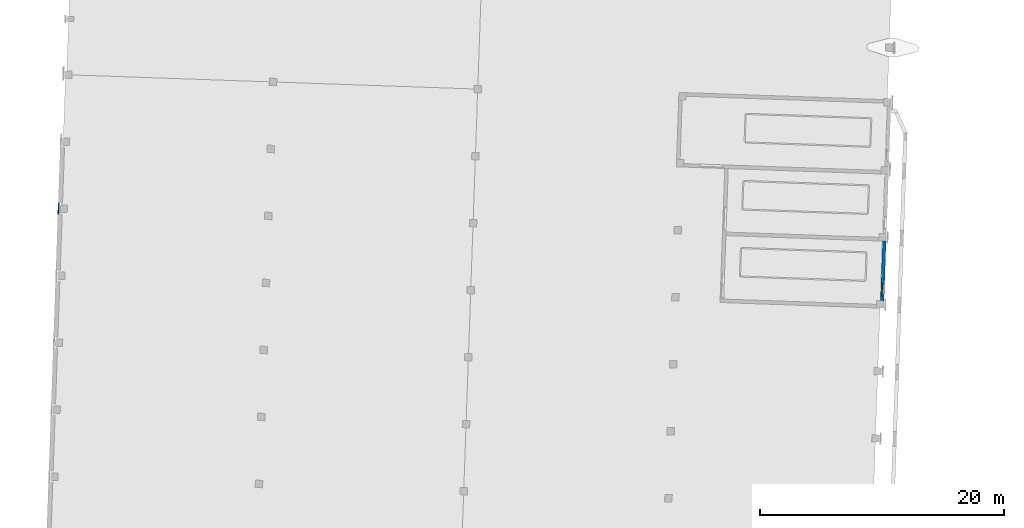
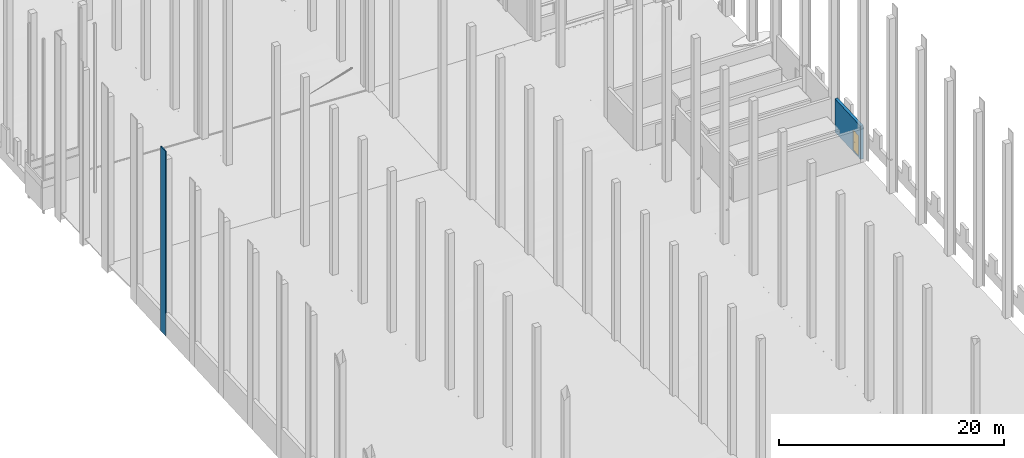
# One storey, part 31 of 44: 2 walls, 1 door, 1 opening.
"""IFC2X3 building model written with IfcOpenShell, lengths in feet."""

from ifc_helpers import new_model, entity, si_unit, converted_unit, derived_unit, direction, frame, frame_2d, origin, place, context, subcontext, project, spatial, rectangle, extrude, faceted_brep, source, transform, mapped, material, material_list, layer, layer_set, layer_usage, type_object, type_shapes, element, fill, save


model = new_model("IFC2X3")

# Units and contexts
model_context = context("Model", 3, precision=0.0001, world=origin(), true_north=direction((0.999390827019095, 0.0348994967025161)))
body_context = subcontext(model_context, "Body", "Model", "MODEL_VIEW")
ifc_project = project(units=[converted_unit("LENGTHUNIT", "FOOT", entity("IfcRatioMeasure", 0.3048), si_unit("LENGTHUNIT", "METRE"), dimensions=[1, 0, 0, 0, 0, 0, 0]), converted_unit("AREAUNIT", "SQUARE FOOT", entity("IfcRatioMeasure", 0.09290304), si_unit("AREAUNIT", "SQUARE_METRE"), dimensions=[2, 0, 0, 0, 0, 0, 0]), converted_unit("VOLUMEUNIT", "CUBIC FOOT", entity("IfcRatioMeasure", 0.028316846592), si_unit("VOLUMEUNIT", "CUBIC_METRE"), dimensions=[3, 0, 0, 0, 0, 0, 0]), converted_unit("PLANEANGLEUNIT", "DEGREE", entity("IfcRatioMeasure", 0.0174532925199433), si_unit("PLANEANGLEUNIT", "RADIAN"), dimensions=[0, 0, 0, 0, 0, 0, 0]), si_unit("MASSUNIT", "GRAM", prefix="KILO"), si_unit("TIMEUNIT", "SECOND"), si_unit("FREQUENCYUNIT", "HERTZ"), si_unit("THERMODYNAMICTEMPERATUREUNIT", "DEGREE_CELSIUS"), derived_unit("THERMALTRANSMITTANCEUNIT", [(si_unit("MASSUNIT", "GRAM", prefix="KILO"), 1), (si_unit("THERMODYNAMICTEMPERATUREUNIT", "KELVIN"), -1), (si_unit("TIMEUNIT", "SECOND"), -3)]), derived_unit("VOLUMETRICFLOWRATEUNIT", [(si_unit("LENGTHUNIT", "METRE"), 3), (si_unit("TIMEUNIT", "SECOND"), -1)]), si_unit("ELECTRICCURRENTUNIT", "AMPERE"), si_unit("ELECTRICVOLTAGEUNIT", "VOLT"), si_unit("POWERUNIT", "WATT"), si_unit("FORCEUNIT", "NEWTON"), si_unit("ILLUMINANCEUNIT", "LUX"), si_unit("LUMINOUSFLUXUNIT", "LUMEN"), si_unit("LUMINOUSINTENSITYUNIT", "CANDELA"), derived_unit("USERDEFINED", [(si_unit("MASSUNIT", "GRAM", prefix="KILO"), -1), (si_unit("LENGTHUNIT", "METRE"), -2), (si_unit("TIMEUNIT", "SECOND"), 3), (si_unit("LUMINOUSFLUXUNIT", "LUMEN"), 1)]), derived_unit("LINEARVELOCITYUNIT", [(si_unit("LENGTHUNIT", "METRE"), 1), (si_unit("TIMEUNIT", "SECOND"), -1)]), si_unit("PRESSUREUNIT", "PASCAL"), derived_unit("USERDEFINED", [(si_unit("LENGTHUNIT", "METRE"), -2), (si_unit("MASSUNIT", "GRAM", prefix="KILO"), 1), (si_unit("TIMEUNIT", "SECOND"), -2)])], contexts=[model_context])

# Site, building, storey
site_placement = place(None, frame((892.518771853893, 322.38689265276, 0.00393700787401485), z_axis=(0.0, 0.0, 1.0), x_axis=(0.0348994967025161, 0.999390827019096, 0.0)))
site = spatial("IfcSite", under=ifc_project, at=site_placement, Name="Default", CompositionType="ELEMENT")
building_placement = place(site_placement, origin())
building = spatial("IfcBuilding", under=site, at=building_placement, CompositionType="ELEMENT")
storey_placement = place(building_placement, frame((0.0, 0.0, 544.75)))
storey = spatial("IfcBuildingStorey", under=building, at=storey_placement, Name="Exist Garage - Ground Level", CompositionType="ELEMENT", Elevation=544.75)

# Wall
ifc_material_1 = material(Name="Masonry - Brick")
ifc_layer_1 = layer(ifc_material_1, 0.302083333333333)
ifc_layer_set_1 = layer_set([ifc_layer_1], Name="Basic Wall:(Existing) Exterior - Brick Veneer 3 5/8\"")
ifc_layer_usage_1 = layer_usage(ifc_layer_set_1, "AXIS2", "NEGATIVE", 0.151041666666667)
wall_type_1 = type_object("IfcWallType", Name="Basic Wall:(Existing) Exterior - Brick Veneer 3 5/8\"", PredefinedType="STANDARD", material=ifc_layer_set_1)
wall_1_placement = place(storey_placement, frame((20.4272542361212, 458.112911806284, 0.0)))
element("IfcWallStandardCase", 1, at=wall_1_placement, inside=storey, type_object=wall_type_1, material=ifc_layer_usage_1, Name="Basic Wall:(Existing) Exterior - Brick Veneer 3 5/8\"", ObjectType="Basic Wall:(Existing) Exterior - Brick Veneer 3 5/8\"", context=body_context, shape_type="SweptSolid", body=[
    extrude(rectangle(XDim=3.00000000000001, YDim=0.302083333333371, at=frame_2d((1.5, 0.0), x_axis=(-1.0, 0.0))), origin(), (0.0, 0.0, 1.0), 65.8125),
])

# Wall, opening, door
ifc_material_2 = material(Name="Masonry - Concrete Masonry Units")
ifc_layer_2 = layer(ifc_material_2, 0.96875)
ifc_layer_set_2 = layer_set([ifc_layer_2], Name="Basic Wall:Interior - (C12) 12\" cmu")
ifc_layer_usage_2 = layer_usage(ifc_layer_set_2, "AXIS2", "NEGATIVE", 0.484375)
wall_type_2 = type_object("IfcWallType", Name="Basic Wall:Interior - (C12) 12\" cmu", PredefinedType="STANDARD", material=ifc_layer_set_2)
wall_2_placement = place(storey_placement, frame((20.9272542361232, 236.248328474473, -0.416666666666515), z_axis=(0.0, 0.0, 1.0), x_axis=(-1.0, 0.0, 0.0)))
wall_2 = element("IfcWallStandardCase", 2, at=wall_2_placement, inside=storey, type_object=wall_type_2, material=ifc_layer_usage_2, Name="Basic Wall:Interior - (C12) 12\" cmu", ObjectType="Basic Wall:Interior - (C12) 12\" cmu", context=body_context, shape_type="SweptSolid", body=[
    extrude(rectangle(XDim=16.0000000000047, YDim=0.96875, at=frame_2d((8.00000000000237, -5.82867087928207e-16), x_axis=(-1.0, 0.0))), origin(), (0.0, 0.0, 1.0), 11.8498357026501),
])
opening_placement = place(wall_2_placement, frame((14.6666666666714, 0.484374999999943, 0.416666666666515)))
opening = element("IfcOpeningElement", 3, at=opening_placement, cuts=wall_2, Name="HM_Frame_Door_-_Interior_Single_3897:3'-0\" x 7'-0\" Metal_5.75\" x 4\":1", ObjectType="Opening", context=body_context, shape_type="SweptSolid", body=[
    extrude(rectangle(XDim=3.33333333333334, YDim=7.33333333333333, at=frame_2d((3.66666666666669, 1.66666666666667), x_axis=(0.0, -1.0))), frame((0.0, 0.0, 0.0), z_axis=(0.0, -1.0, 0.0), x_axis=(0.0, 0.0, 1.0)), (0.0, 0.0, 1.0), 0.96875),
])
ifc_material_3 = material(Name="Door - Hardware")
ifc_material_4 = material(Name="Door - H.M. Panel")
ifc_material_5 = material(Name="Door - H.M. Frame")
ifc_material_list_1 = material_list([ifc_material_3, ifc_material_4, ifc_material_5])
ifc_material_list_2 = material_list([ifc_material_3, ifc_material_4, ifc_material_5])
door_style = type_object("IfcDoorStyle", Name="3'-0\" x 7'-0\" Metal_5.75\" x 4\"", ConstructionType="NOTDEFINED", OperationType="NOTDEFINED", ParameterTakesPrecedence=False, Sizeable=False, material=ifc_material_list_2)
shared_shape = source(origin(), body_context, "Body", "Brep", [
    faceted_brep([(2.6243203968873, 0.425163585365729, 3.36458333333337), (2.63071126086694, 0.41145833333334, 3.36458333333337), (2.63071126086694, 0.41145833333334, 3.30208333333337), (2.6243203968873, 0.425163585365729, 3.30208333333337), (2.57149311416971, 0.53845205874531, 3.31250000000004), (2.57149311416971, 0.53845205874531, 3.3541666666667), (2.53373028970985, 0.520842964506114, 3.31250000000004), (2.58655757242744, 0.407554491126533, 3.30208333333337), (2.60416666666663, 0.369791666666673, 3.30208333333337), (2.60416666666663, 0.369791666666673, 3.36458333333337), (2.58655757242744, 0.407554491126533, 3.36458333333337), (2.53373028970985, 0.520842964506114, 3.3541666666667), (2.60416666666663, 0.41145833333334, 3.30208333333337), (2.60416666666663, 0.41145833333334, 3.36458333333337), (2.9361960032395, 0.369791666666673, 3.29168707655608), (2.94639661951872, 0.369791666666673, 3.29262754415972), (2.95605949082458, 0.369791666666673, 3.29602842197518), (2.96460055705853, 0.369791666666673, 3.3016841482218), (2.97150356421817, 0.369791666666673, 3.30925286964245), (2.97635126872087, 0.369791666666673, 3.31827710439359), (2.97885065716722, 0.369791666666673, 3.32821139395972), (2.97885065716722, 0.369791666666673, 3.33845527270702), (2.97635126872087, 0.369791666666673, 3.34838956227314), (2.97150356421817, 0.369791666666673, 3.35741379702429), (2.96460055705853, 0.369791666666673, 3.36498251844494), (2.95605949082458, 0.369791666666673, 3.37063824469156), (2.94639661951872, 0.369791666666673, 3.37403912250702), (2.9361960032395, 0.369791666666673, 3.37497959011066), (2.92566985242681, 0.41145833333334, 3.29338137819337), (2.9361960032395, 0.41145833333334, 3.29168707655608), (2.9361960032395, 0.41145833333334, 3.37497959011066), (2.92566985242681, 0.41145833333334, 3.37328528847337), (2.91591827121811, 0.41145833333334, 3.36897516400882), (2.90757973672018, 0.41145833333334, 3.36233141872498), (2.90120020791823, 0.41145833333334, 3.35378904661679), (2.89719737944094, 0.41145833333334, 3.34390735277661), (2.8958333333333, 0.41145833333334, 3.33333333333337), (2.89719737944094, 0.41145833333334, 3.32275931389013), (2.90120020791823, 0.41145833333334, 3.31287762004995), (2.90757973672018, 0.41145833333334, 3.30433524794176), (2.91591827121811, 0.41145833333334, 3.29769150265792), (2.94568224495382, 0.41145833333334, 3.29247795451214), (2.95473886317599, 0.41145833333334, 3.2954000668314), (2.96289592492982, 0.41145833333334, 3.30030065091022), (2.96972778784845, 0.41145833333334, 3.30692347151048), (2.9748787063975, 0.41145833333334, 3.31492291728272), (2.97808054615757, 0.41145833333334, 3.32388185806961), (2.97916666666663, 0.411458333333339, 3.33333333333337), (2.97808054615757, 0.41145833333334, 3.34278480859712), (2.9748787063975, 0.41145833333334, 3.35174374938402), (2.96972778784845, 0.41145833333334, 3.35974319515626), (2.96289592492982, 0.41145833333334, 3.36636601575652), (2.95473886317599, 0.41145833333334, 3.37126659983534), (2.94568224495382, 0.41145833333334, 3.3741887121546), (2.97774690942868, 0.536458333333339, 3.34411746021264), (2.97916666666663, 0.536458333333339, 3.33333333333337), (2.97358439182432, 0.536458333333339, 3.3541666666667), (2.9669627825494, 0.536458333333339, 3.36279611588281), (2.9583333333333, 0.536458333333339, 3.36941772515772), (2.94828412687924, 0.536458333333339, 3.37358024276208), (2.93749999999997, 0.536458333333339, 3.37500000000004), (2.92671587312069, 0.536458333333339, 3.37358024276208), (2.91666666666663, 0.536458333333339, 3.36941772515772), (2.90803721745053, 0.536458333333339, 3.36279611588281), (2.90141560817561, 0.536458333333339, 3.3541666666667), (2.89725309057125, 0.536458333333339, 3.34411746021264), (2.8958333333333, 0.536458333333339, 3.33333333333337), (2.89725309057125, 0.536458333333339, 3.3225492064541), (2.90141560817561, 0.536458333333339, 3.31250000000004), (2.90803721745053, 0.536458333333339, 3.30387055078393), (2.91666666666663, 0.536458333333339, 3.29724894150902), (2.92671587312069, 0.536458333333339, 3.29308642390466), (2.93749999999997, 0.536458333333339, 3.2916666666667), (2.94828412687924, 0.536458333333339, 3.29308642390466), (2.9583333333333, 0.536458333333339, 3.29724894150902), (2.9669627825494, 0.536458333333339, 3.30387055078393), (2.97358439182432, 0.536458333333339, 3.31250000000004), (2.97774690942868, 0.536458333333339, 3.3225492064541), (2.8645833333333, 0.536458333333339, 3.4596287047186), (2.83438026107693, 0.536458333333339, 3.43645307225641), (2.89975555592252, 0.536458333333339, 3.47419751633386), (2.93749999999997, 0.536458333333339, 3.4791666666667), (2.97524444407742, 0.536458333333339, 3.47419751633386), (3.01041666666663, 0.536458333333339, 3.4596287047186), (3.040619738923, 0.536458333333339, 3.43645307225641), (3.0637953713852, 0.536458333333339, 3.40625000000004), (3.07836418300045, 0.536458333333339, 3.37107777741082), (3.0833333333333, 0.536458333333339, 3.33333333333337), (3.07836418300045, 0.536458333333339, 3.29558888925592), (3.0637953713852, 0.536458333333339, 3.2604166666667), (3.040619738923, 0.536458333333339, 3.23021359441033), (3.01041666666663, 0.536458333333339, 3.20703796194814), (2.97524444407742, 0.536458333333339, 3.19246915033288), (2.93749999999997, 0.536458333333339, 3.18750000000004), (2.89975555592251, 0.536458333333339, 3.19246915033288), (2.8645833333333, 0.536458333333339, 3.20703796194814), (2.83438026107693, 0.536458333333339, 3.23021359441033), (2.81120462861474, 0.536458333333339, 3.2604166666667), (2.79663581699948, 0.536458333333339, 3.29558888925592), (2.79166666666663, 0.536458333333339, 3.33333333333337), (2.79663581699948, 0.536458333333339, 3.37107777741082), (2.81120462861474, 0.536458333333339, 3.40625000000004), (2.83438026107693, 0.578125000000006, 3.23021359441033), (2.81120462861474, 0.578125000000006, 3.2604166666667), (2.79663581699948, 0.578125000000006, 3.29558888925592), (2.79166666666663, 0.578125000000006, 3.33333333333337), (2.79663581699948, 0.578125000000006, 3.37107777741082), (2.81120462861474, 0.578125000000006, 3.40625000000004), (2.83438026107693, 0.578125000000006, 3.43645307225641), (2.8645833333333, 0.578125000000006, 3.4596287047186), (2.89975555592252, 0.578125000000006, 3.47419751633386), (2.93749999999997, 0.578125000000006, 3.4791666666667), (2.97524444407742, 0.578125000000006, 3.47419751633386), (3.01041666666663, 0.578125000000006, 3.4596287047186), (3.040619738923, 0.578125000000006, 3.43645307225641), (3.0637953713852, 0.578125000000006, 3.40625000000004), (3.07836418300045, 0.578125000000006, 3.37107777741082), (3.0833333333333, 0.578125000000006, 3.33333333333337), (3.07836418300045, 0.578125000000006, 3.29558888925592), (3.0637953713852, 0.578125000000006, 3.2604166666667), (3.040619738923, 0.578125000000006, 3.23021359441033), (3.01041666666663, 0.578125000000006, 3.20703796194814), (2.97524444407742, 0.578125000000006, 3.19246915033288), (2.93749999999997, 0.578125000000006, 3.18750000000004), (2.89975555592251, 0.578125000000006, 3.19246915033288), (2.8645833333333, 0.578125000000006, 3.20703796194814)], [[[0, 1, 2, 3, 4, 5]], [[6, 7, 8, 9, 10, 11]], [[3, 2, 12, 8, 7]], [[4, 3, 7, 6]], [[5, 4, 6, 11]], [[0, 5, 11, 10]], [[1, 0, 10, 9, 13]], [[9, 8, 14, 15, 16, 17, 18, 19, 20, 21, 22, 23, 24, 25, 26, 27]], [[28, 29, 12, 2, 1, 13, 30, 31, 32, 33, 34, 35, 36, 37, 38, 39, 40]], [[14, 8, 12, 29]], [[41, 14, 29]], [[42, 15, 41]], [[17, 43, 44]], [[44, 45, 18]], [[42, 43, 16]], [[46, 19, 45]], [[42, 16, 15]], [[15, 14, 41]], [[19, 18, 45]], [[17, 44, 18]], [[17, 16, 43]], [[20, 19, 46]], [[46, 47, 20]], [[48, 21, 47]], [[49, 22, 48]], [[24, 50, 51]], [[51, 52, 25]], [[49, 50, 23]], [[53, 26, 52]], [[24, 23, 50]], [[23, 22, 49]], [[22, 21, 48]], [[27, 26, 53]], [[25, 52, 26]], [[25, 24, 51]], [[27, 53, 30]], [[47, 21, 20]], [[9, 27, 30, 13]], [[54, 48, 55]], [[56, 49, 54]], [[51, 57, 58]], [[56, 57, 50]], [[52, 58, 59]], [[54, 49, 48]], [[48, 47, 55]], [[52, 51, 58]], [[50, 57, 51]], [[50, 49, 56]], [[53, 52, 59]], [[59, 60, 53]], [[61, 30, 60]], [[62, 31, 61]], [[33, 63, 64]], [[64, 65, 34]], [[62, 63, 32]], [[66, 35, 65]], [[62, 32, 31]], [[31, 30, 61]], [[35, 34, 65]], [[33, 64, 34]], [[33, 32, 63]], [[36, 35, 66]], [[60, 30, 53]], [[67, 37, 66]], [[68, 38, 67]], [[40, 69, 70]], [[68, 69, 39]], [[28, 70, 71]], [[67, 38, 37]], [[37, 36, 66]], [[28, 40, 70]], [[39, 69, 40]], [[39, 38, 68]], [[29, 28, 71]], [[71, 72, 29]], [[73, 41, 72]], [[74, 42, 73]], [[44, 75, 76]], [[76, 77, 45]], [[74, 75, 43]], [[55, 46, 77]], [[74, 43, 42]], [[42, 41, 73]], [[46, 45, 77]], [[44, 76, 45]], [[44, 43, 75]], [[47, 46, 55]], [[72, 41, 29]], [[62, 61, 78]], [[79, 62, 78]], [[62, 79, 63]], [[61, 80, 78]], [[80, 61, 60]], [[80, 60, 81]], [[59, 81, 60]], [[81, 59, 82]], [[59, 58, 82]], [[83, 82, 58]], [[57, 83, 58]], [[83, 57, 84]], [[56, 84, 57]], [[85, 84, 56]], [[54, 85, 56]], [[86, 85, 54]], [[86, 54, 55]], [[86, 55, 87]], [[87, 55, 77]], [[87, 77, 88]], [[88, 77, 76]], [[88, 76, 89]], [[90, 89, 76]], [[90, 76, 75]], [[75, 91, 90]], [[75, 74, 91]], [[92, 91, 74]], [[73, 92, 74]], [[73, 93, 92]], [[93, 73, 72]], [[72, 94, 93]], [[71, 94, 72]], [[94, 71, 95]], [[70, 95, 71]], [[96, 95, 70]], [[96, 70, 69]], [[96, 69, 97]], [[97, 69, 68]], [[97, 68, 98]], [[67, 98, 68]], [[99, 98, 67]], [[67, 66, 99]], [[66, 100, 99]], [[100, 66, 65]], [[100, 65, 101]], [[65, 64, 101]], [[63, 101, 64]], [[79, 101, 63]], [[102, 103, 104, 105, 106, 107, 108, 109, 110, 111, 112, 113, 114, 115, 116, 117, 118, 119, 120, 121, 122, 123, 124, 125]], [[116, 86, 87, 117]], [[115, 85, 86, 116]], [[83, 84, 114, 113]], [[115, 114, 84, 85]], [[82, 83, 113, 112]], [[81, 82, 112, 111]], [[110, 80, 81, 111]], [[109, 78, 80, 110]], [[101, 79, 108, 107]], [[109, 108, 79, 78]], [[100, 101, 107, 106]], [[99, 100, 106, 105]], [[104, 98, 99, 105]], [[103, 97, 98, 104]], [[95, 96, 102, 125]], [[103, 102, 96, 97]], [[94, 95, 125, 124]], [[93, 94, 124, 123]], [[122, 92, 93, 123]], [[121, 91, 92, 122]], [[89, 90, 120, 119]], [[121, 120, 90, 91]], [[88, 89, 119, 118]], [[87, 88, 118, 117]]]),
    faceted_brep([(2.62432039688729, 0.876919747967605, 3.30208333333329), (2.63071126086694, 0.890624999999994, 3.30208333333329), (2.63071126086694, 0.890624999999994, 3.36458333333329), (2.62432039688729, 0.876919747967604, 3.36458333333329), (2.57149311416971, 0.763631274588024, 3.35416666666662), (2.57149311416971, 0.763631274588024, 3.31249999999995), (2.53373028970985, 0.781240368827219, 3.35416666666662), (2.58655757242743, 0.8945288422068, 3.36458333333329), (2.60416666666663, 0.932291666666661, 3.36458333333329), (2.60416666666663, 0.932291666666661, 3.30208333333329), (2.58655757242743, 0.8945288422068, 3.30208333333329), (2.53373028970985, 0.781240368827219, 3.31249999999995), (2.60416666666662, 0.890624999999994, 3.36458333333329), (2.60416666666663, 0.890624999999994, 3.30208333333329), (2.9361960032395, 0.932291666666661, 3.37497959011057), (2.94639661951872, 0.932291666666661, 3.37403912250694), (2.95605949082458, 0.932291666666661, 3.37063824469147), (2.96460055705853, 0.932291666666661, 3.36498251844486), (2.97150356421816, 0.932291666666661, 3.35741379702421), (2.97635126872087, 0.932291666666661, 3.34838956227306), (2.97885065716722, 0.932291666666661, 3.33845527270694), (2.97885065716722, 0.932291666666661, 3.32821139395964), (2.97635126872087, 0.932291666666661, 3.31827710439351), (2.97150356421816, 0.932291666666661, 3.30925286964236), (2.96460055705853, 0.932291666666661, 3.30168414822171), (2.95605949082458, 0.932291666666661, 3.2960284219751), (2.94639661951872, 0.932291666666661, 3.29262754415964), (2.9361960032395, 0.932291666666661, 3.291687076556), (2.92566985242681, 0.890624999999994, 3.37328528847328), (2.9361960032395, 0.890624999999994, 3.37497959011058), (2.9361960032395, 0.890624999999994, 3.291687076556), (2.92566985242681, 0.890624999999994, 3.29338137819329), (2.91591827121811, 0.890624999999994, 3.29769150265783), (2.90757973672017, 0.890624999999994, 3.30433524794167), (2.90120020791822, 0.890624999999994, 3.31287762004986), (2.89719737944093, 0.890624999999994, 3.32275931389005), (2.8958333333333, 0.890624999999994, 3.33333333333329), (2.89719737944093, 0.890624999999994, 3.34390735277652), (2.90120020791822, 0.890624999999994, 3.35378904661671), (2.90757973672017, 0.890624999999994, 3.3623314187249), (2.91591827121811, 0.890624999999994, 3.36897516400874), (2.94568224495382, 0.890624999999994, 3.37418871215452), (2.95473886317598, 0.890624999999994, 3.37126659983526), (2.96289592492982, 0.890624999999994, 3.36636601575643), (2.96972778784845, 0.890624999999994, 3.35974319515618), (2.9748787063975, 0.890624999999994, 3.35174374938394), (2.97808054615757, 0.890624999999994, 3.34278480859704), (2.97916666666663, 0.890624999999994, 3.33333333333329), (2.97808054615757, 0.890624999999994, 3.32388185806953), (2.9748787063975, 0.890624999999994, 3.31492291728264), (2.96972778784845, 0.890624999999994, 3.30692347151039), (2.96289592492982, 0.890624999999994, 3.30030065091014), (2.95473886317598, 0.890624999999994, 3.29540006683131), (2.94568224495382, 0.890624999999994, 3.29247795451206), (2.97774690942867, 0.765624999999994, 3.32254920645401), (2.97916666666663, 0.765624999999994, 3.33333333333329), (2.97358439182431, 0.765624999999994, 3.31249999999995), (2.9669627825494, 0.765624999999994, 3.30387055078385), (2.9583333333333, 0.765624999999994, 3.29724894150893), (2.94828412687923, 0.765624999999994, 3.29308642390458), (2.93749999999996, 0.765624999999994, 3.29166666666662), (2.92671587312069, 0.765624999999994, 3.29308642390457), (2.91666666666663, 0.765624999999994, 3.29724894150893), (2.90803721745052, 0.765624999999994, 3.30387055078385), (2.90141560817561, 0.765624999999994, 3.31249999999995), (2.89725309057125, 0.765624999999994, 3.32254920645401), (2.8958333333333, 0.765624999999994, 3.33333333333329), (2.89725309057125, 0.765624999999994, 3.34411746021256), (2.90141560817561, 0.765624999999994, 3.35416666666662), (2.90803721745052, 0.765624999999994, 3.36279611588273), (2.91666666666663, 0.765624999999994, 3.36941772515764), (2.92671587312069, 0.765624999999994, 3.373580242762), (2.93749999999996, 0.765624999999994, 3.37499999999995), (2.94828412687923, 0.765624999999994, 3.373580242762), (2.9583333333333, 0.765624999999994, 3.36941772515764), (2.9669627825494, 0.765624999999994, 3.36279611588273), (2.97358439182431, 0.765624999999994, 3.35416666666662), (2.97774690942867, 0.765624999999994, 3.34411746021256), (2.8645833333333, 0.765624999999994, 3.20703796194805), (2.83438026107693, 0.765624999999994, 3.23021359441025), (2.89975555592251, 0.765624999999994, 3.1924691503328), (2.93749999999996, 0.765624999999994, 3.18749999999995), (2.97524444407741, 0.765624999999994, 3.1924691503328), (3.01041666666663, 0.765624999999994, 3.20703796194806), (3.040619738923, 0.765624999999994, 3.23021359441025), (3.06379537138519, 0.765624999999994, 3.26041666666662), (3.07836418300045, 0.765624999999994, 3.29558888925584), (3.0833333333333, 0.765624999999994, 3.33333333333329), (3.07836418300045, 0.765624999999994, 3.37107777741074), (3.06379537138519, 0.765624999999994, 3.40624999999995), (3.040619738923, 0.765624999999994, 3.43645307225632), (3.01041666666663, 0.765624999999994, 3.45962870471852), (2.97524444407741, 0.765624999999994, 3.47419751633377), (2.93749999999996, 0.765624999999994, 3.47916666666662), (2.89975555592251, 0.765624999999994, 3.47419751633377), (2.8645833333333, 0.765624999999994, 3.45962870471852), (2.83438026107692, 0.765624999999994, 3.43645307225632), (2.81120462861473, 0.765624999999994, 3.40624999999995), (2.79663581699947, 0.765624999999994, 3.37107777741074), (2.79166666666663, 0.765624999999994, 3.33333333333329), (2.79663581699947, 0.765624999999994, 3.29558888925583), (2.81120462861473, 0.765624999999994, 3.26041666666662), (2.83438026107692, 0.723958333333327, 3.43645307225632), (2.81120462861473, 0.723958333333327, 3.40624999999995), (2.79663581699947, 0.723958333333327, 3.37107777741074), (2.79166666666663, 0.723958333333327, 3.33333333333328), (2.79663581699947, 0.723958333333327, 3.29558888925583), (2.81120462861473, 0.723958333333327, 3.26041666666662), (2.83438026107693, 0.723958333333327, 3.23021359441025), (2.8645833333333, 0.723958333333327, 3.20703796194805), (2.89975555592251, 0.723958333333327, 3.1924691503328), (2.93749999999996, 0.723958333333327, 3.18749999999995), (2.97524444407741, 0.723958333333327, 3.1924691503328), (3.01041666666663, 0.723958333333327, 3.20703796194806), (3.040619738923, 0.723958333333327, 3.23021359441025), (3.06379537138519, 0.723958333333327, 3.26041666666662), (3.07836418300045, 0.723958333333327, 3.29558888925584), (3.0833333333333, 0.723958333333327, 3.33333333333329), (3.07836418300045, 0.723958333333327, 3.37107777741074), (3.06379537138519, 0.723958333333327, 3.40624999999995), (3.040619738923, 0.723958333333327, 3.43645307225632), (3.01041666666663, 0.723958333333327, 3.45962870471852), (2.97524444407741, 0.723958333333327, 3.47419751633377), (2.93749999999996, 0.723958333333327, 3.47916666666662), (2.89975555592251, 0.723958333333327, 3.47419751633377), (2.8645833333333, 0.723958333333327, 3.45962870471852)], [[[0, 1, 2, 3, 4, 5]], [[6, 7, 8, 9, 10, 11]], [[3, 2, 12, 8, 7]], [[4, 3, 7, 6]], [[5, 4, 6, 11]], [[0, 5, 11, 10]], [[1, 0, 10, 9, 13]], [[9, 8, 14, 15, 16, 17, 18, 19, 20, 21, 22, 23, 24, 25, 26, 27]], [[28, 29, 12, 2, 1, 13, 30, 31, 32, 33, 34, 35, 36, 37, 38, 39, 40]], [[14, 8, 12, 29]], [[41, 14, 29]], [[42, 15, 41]], [[17, 43, 44]], [[44, 45, 18]], [[42, 43, 16]], [[46, 19, 45]], [[42, 16, 15]], [[15, 14, 41]], [[19, 18, 45]], [[17, 44, 18]], [[17, 16, 43]], [[20, 19, 46]], [[46, 47, 20]], [[48, 21, 47]], [[49, 22, 48]], [[24, 50, 51]], [[51, 52, 25]], [[49, 50, 23]], [[53, 26, 52]], [[24, 23, 50]], [[23, 22, 49]], [[22, 21, 48]], [[27, 26, 53]], [[25, 52, 26]], [[25, 24, 51]], [[27, 53, 30]], [[47, 21, 20]], [[9, 27, 30, 13]], [[54, 48, 55]], [[56, 49, 54]], [[51, 57, 58]], [[56, 57, 50]], [[52, 58, 59]], [[54, 49, 48]], [[48, 47, 55]], [[52, 51, 58]], [[50, 57, 51]], [[50, 49, 56]], [[53, 52, 59]], [[59, 60, 53]], [[61, 30, 60]], [[62, 31, 61]], [[33, 63, 64]], [[64, 65, 34]], [[62, 63, 32]], [[66, 35, 65]], [[62, 32, 31]], [[31, 30, 61]], [[35, 34, 65]], [[33, 64, 34]], [[33, 32, 63]], [[36, 35, 66]], [[60, 30, 53]], [[67, 37, 66]], [[68, 38, 67]], [[40, 69, 70]], [[68, 69, 39]], [[28, 70, 71]], [[67, 38, 37]], [[37, 36, 66]], [[28, 40, 70]], [[39, 69, 40]], [[39, 38, 68]], [[29, 28, 71]], [[71, 72, 29]], [[73, 41, 72]], [[74, 42, 73]], [[44, 75, 76]], [[76, 77, 45]], [[74, 75, 43]], [[55, 46, 77]], [[74, 43, 42]], [[42, 41, 73]], [[46, 45, 77]], [[44, 76, 45]], [[44, 43, 75]], [[47, 46, 55]], [[72, 41, 29]], [[62, 61, 78]], [[79, 62, 78]], [[62, 79, 63]], [[61, 80, 78]], [[80, 61, 60]], [[80, 60, 81]], [[59, 81, 60]], [[81, 59, 82]], [[59, 58, 82]], [[83, 82, 58]], [[57, 83, 58]], [[83, 57, 84]], [[56, 84, 57]], [[85, 84, 56]], [[54, 85, 56]], [[86, 85, 54]], [[86, 54, 55]], [[86, 55, 87]], [[87, 55, 77]], [[87, 77, 88]], [[88, 77, 76]], [[88, 76, 89]], [[90, 89, 76]], [[90, 76, 75]], [[75, 91, 90]], [[75, 74, 91]], [[92, 91, 74]], [[73, 92, 74]], [[73, 93, 92]], [[93, 73, 72]], [[72, 94, 93]], [[71, 94, 72]], [[94, 71, 95]], [[70, 95, 71]], [[96, 95, 70]], [[96, 70, 69]], [[96, 69, 97]], [[97, 69, 68]], [[97, 68, 98]], [[67, 98, 68]], [[99, 98, 67]], [[67, 66, 99]], [[66, 100, 99]], [[100, 66, 65]], [[100, 65, 101]], [[65, 64, 101]], [[63, 101, 64]], [[79, 101, 63]], [[102, 103, 104, 105, 106, 107, 108, 109, 110, 111, 112, 113, 114, 115, 116, 117, 118, 119, 120, 121, 122, 123, 124, 125]], [[116, 86, 87, 117]], [[115, 85, 86, 116]], [[83, 84, 114, 113]], [[115, 114, 84, 85]], [[82, 83, 113, 112]], [[81, 82, 112, 111]], [[110, 80, 81, 111]], [[109, 78, 80, 110]], [[101, 79, 108, 107]], [[109, 108, 79, 78]], [[100, 101, 107, 106]], [[99, 100, 106, 105]], [[104, 98, 99, 105]], [[103, 97, 98, 104]], [[95, 96, 102, 125]], [[103, 102, 96, 97]], [[94, 95, 125, 124]], [[93, 94, 124, 123]], [[122, 92, 93, 123]], [[121, 91, 92, 122]], [[89, 90, 120, 119]], [[121, 120, 90, 91]], [[88, 89, 119, 118]], [[87, 88, 118, 117]]]),
    faceted_brep([(0.166666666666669, 0.723958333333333, 7.0), (3.16666666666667, 0.723958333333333, 7.0), (3.16666666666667, 0.723958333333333, 0.0), (0.166666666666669, 0.723958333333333, 0.0), (0.166666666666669, 0.578125, 7.0), (0.166666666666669, 0.578125, 0.0), (3.16666666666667, 0.578125, 0.0), (3.16666666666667, 0.578125, 7.0)], [[[0, 1, 2, 3]], [[4, 5, 6, 7]], [[1, 0, 4, 7]], [[2, 1, 7, 6]], [[3, 2, 6, 5]], [[0, 3, 5, 4]]]),
    faceted_brep([(0.166666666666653, 0.723958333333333, 0.0), (0.166666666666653, 0.578125, 0.0), (0.218749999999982, 0.578125, 0.0), (0.218749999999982, 0.390625, 0.0), (0.166666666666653, 0.390625, 0.0), (0.166666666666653, 0.244791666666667, 0.0), (0.0, 0.244791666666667, 0.0), (0.0, 0.723958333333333, 0.0), (0.166666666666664, 0.723958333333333, 7.0), (0.166666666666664, 0.578125, 7.0), (3.16666666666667, 0.578125, 7.0), (3.16666666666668, 0.578125, 0.0), (3.11458333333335, 0.578125, 0.0), (3.11458333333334, 0.578125, 6.94791666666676), (0.218749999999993, 0.578125, 6.94791666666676), (0.218749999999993, 0.390625, 6.94791666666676), (3.11458333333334, 0.390625, 6.94791666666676), (3.11458333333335, 0.390625, 0.0), (3.16666666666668, 0.390625, 0.0), (3.16666666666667, 0.390625, 7.0), (0.166666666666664, 0.390625, 7.0), (0.166666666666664, 0.244791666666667, 7.0), (3.16666666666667, 0.244791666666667, 7.0), (3.16666666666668, 0.244791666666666, 0.0), (3.33333333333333, 0.244791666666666, 0.0), (3.33333333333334, 0.244791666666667, 7.33333333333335), (0.0, 0.244791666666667, 7.33333333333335), (0.0, 0.723958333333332, 7.33333333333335), (3.33333333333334, 0.723958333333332, 7.33333333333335), (3.33333333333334, 0.723958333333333, 0.0), (3.16666666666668, 0.723958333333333, 0.0), (3.16666666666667, 0.723958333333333, 7.0)], [[[0, 1, 2, 3, 4, 5, 6, 7]], [[1, 0, 8, 9]], [[2, 1, 9, 10, 11, 12, 13, 14]], [[3, 2, 14, 15]], [[4, 3, 15, 16, 17, 18, 19, 20]], [[5, 4, 20, 21]], [[6, 5, 21, 22, 23, 24, 25, 26]], [[7, 6, 26, 27]], [[0, 7, 27, 28, 29, 30, 31, 8]], [[30, 11, 10, 31]], [[30, 29, 24, 23, 18, 17, 12, 11]], [[12, 17, 16, 13]], [[19, 18, 23, 22]], [[29, 28, 25, 24]], [[25, 28, 27, 26]], [[21, 20, 19, 22]], [[15, 14, 13, 16]], [[10, 9, 8, 31]]]),
])
type_shapes(door_style, [shared_shape])
door_placement = place(opening_placement, frame((0.0, 0.0, 0.0), z_axis=(0.0, 0.0, 1.0), x_axis=(-1.0, 0.0, 0.0)))
door = element("IfcDoor", 4, at=door_placement, inside=storey, type_object=door_style, material=ifc_material_list_1, Name="HM_Frame_Door_-_Interior_Single_3897:3'-0\" x 7'-0\" Metal_5.75\" x 4\"", ObjectType="3'-0\" x 7'-0\" Metal_5.75\" x 4\"", OverallHeight=7.33333333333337, OverallWidth=3.33333333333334, context=body_context, shape_type="MappedRepresentation", body=[
    mapped(shared_shape, transform((0.0, 0.0, 0.0), scale=1.0)),
])
fill(opening, door)

save(model, "model.ifc")
